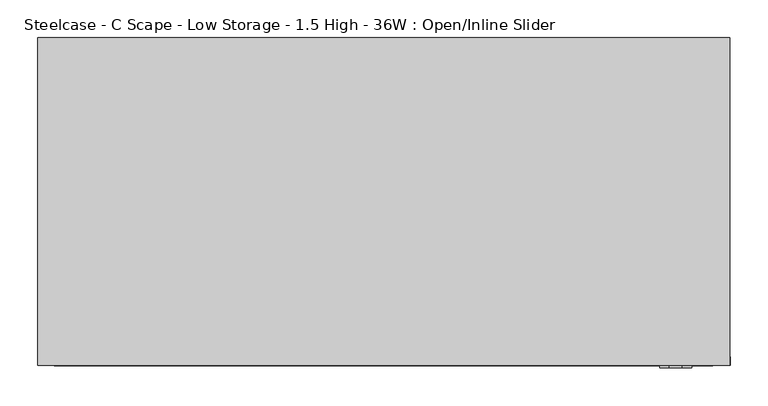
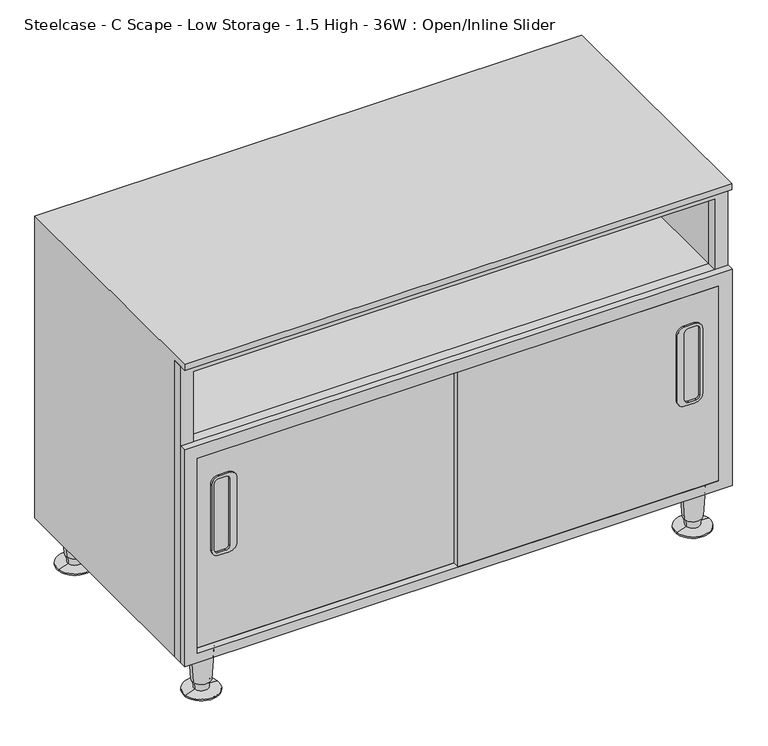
"""IFC4 building model written with IfcOpenShell, lengths in millimetres: furniture geometry, Steelcase - C Scape - Low Storage - 1.5 High - 36W : Open/Inline Slider."""

import ifcopenshell
import ifcopenshell.guid

model = None  # the IFC model being written
_history = None  # IfcOwnerHistory: only IFC2X3 demands one
_inside = {}  # id of a spatial element -> (the spatial element, [elements in it])
_under = {}  # id of a project, library or spatial element -> (it, [spatial elements below it])
_declared = {}  # id of a project -> (the project, [libraries it declares])
_typed = {}  # id of a type object -> (the type object, [elements of that type])
_made_of = {}  # id of a material, layer set ... -> (it, [elements and type objects made of it])


def new_model(schema):
    """Start an empty IFC model of exactly this schema.

    Asked for "IFC4X3", IfcOpenShell would pick the latest addendum, in which some entities
    have other attributes; the version numbers below select the first issue.
    IFC2X3 requires an IfcOwnerHistory on every rooted entity: one is made here for all.
    """
    global model, _history
    if schema == "IFC4X3":
        model = ifcopenshell.file(schema_version=(4, 3, 0, 0))
    else:
        model = ifcopenshell.file(schema=schema)
    _inside.clear()
    _under.clear()
    _declared.clear()
    _typed.clear()
    _made_of.clear()
    _history = None
    if model.schema == "IFC2X3":
        org = make("IfcOrganization", Name="unknown")
        user = make(
            "IfcPersonAndOrganization",
            ThePerson=make("IfcPerson", FamilyName="unknown"),
            TheOrganization=org,
        )
        app = make(
            "IfcApplication",
            ApplicationDeveloper=org,
            Version="unknown",
            ApplicationFullName="unknown",
            ApplicationIdentifier="unknown",
        )
        _history = make(
            "IfcOwnerHistory",
            OwningUser=user,
            OwningApplication=app,
            ChangeAction="ADDED",
            CreationDate=0,
        )
    return model


def make(cls, **values):
    """One entity of the class cls with the attributes given. An attribute that is None is left unset."""
    return model.create_entity(
        cls, **{name: value for name, value in values.items() if value is not None}
    )


def rooted(cls, **values):
    """An entity with a GlobalId (a new one), such as an element, a storey or a relation."""
    return make(cls, GlobalId=ifcopenshell.guid.new(), OwnerHistory=_history, **values)


def si_unit(unit_type, name, prefix=None):
    """IfcSIUnit, for example si_unit("LENGTHUNIT", "METRE", prefix="MILLI")."""
    return make("IfcSIUnit", UnitType=unit_type, Prefix=prefix, Name=name)


def assignment(units):
    """IfcUnitAssignment: the units of a project."""
    return None if units is None else make("IfcUnitAssignment", Units=units)


def point(xyz):
    """IfcCartesianPoint."""
    return None if xyz is None else make("IfcCartesianPoint", Coordinates=xyz)


def direction(xyz):
    """IfcDirection."""
    return None if xyz is None else make("IfcDirection", DirectionRatios=xyz)


def frame(location, z_axis=None, x_axis=None):
    """IfcAxis2Placement3D, a coordinate frame: its origin and axes. An axis left out is left unset."""
    return make(
        "IfcAxis2Placement3D",
        Location=point(location),
        Axis=direction(z_axis),
        RefDirection=direction(x_axis),
    )


def frame_2d(location, x_axis=None):
    """IfcAxis2Placement2D, a coordinate frame in the plane: its origin and x axis."""
    return make(
        "IfcAxis2Placement2D", Location=point(location), RefDirection=direction(x_axis)
    )


def origin():
    """The frame at (0, 0, 0) with its axes left unset."""
    return frame((0.0, 0.0, 0.0))


def place(relative_to, where):
    """IfcLocalPlacement: puts the frame where relative to a parent placement (None: the world)."""
    return make(
        "IfcLocalPlacement", PlacementRelTo=relative_to, RelativePlacement=where
    )


def context(
    kind, dimensions, precision=None, world=None, true_north=None, identifier=None
):
    """IfcGeometricRepresentationContext, for example the 3D "Model" context."""
    return make(
        "IfcGeometricRepresentationContext",
        ContextIdentifier=identifier,
        ContextType=kind,
        CoordinateSpaceDimension=dimensions,
        Precision=precision,
        WorldCoordinateSystem=world,
        TrueNorth=true_north,
    )


def project(units=None, contexts=None):
    """IfcProject with its units and contexts."""
    return rooted(
        "IfcProject",
        Name="project",
        RepresentationContexts=contexts,
        UnitsInContext=assignment(units),
    )


def spatial(cls, under=None, at=None, **own):
    """A site, building, storey or space (cls), placed at a placement, below another one or the project."""
    s = rooted(cls, ObjectPlacement=at, **own)
    if under is not None:
        _under.setdefault(under.id(), (under, []))[1].append(s)
    return s


def polyline(points):
    """IfcPolyline through the points."""
    return make("IfcPolyline", Points=[point(p) for p in points])


def circle_curve(where, radius):
    """IfcCircle in the frame where."""
    return make("IfcCircle", Position=where, Radius=radius)


def trimmed(basis, trim1, trim2, sense, master):
    """IfcTrimmedCurve: the piece of a basis curve between two trims."""
    return make(
        "IfcTrimmedCurve",
        BasisCurve=basis,
        Trim1=trim1,
        Trim2=trim2,
        SenseAgreement=sense,
        MasterRepresentation=master,
    )


def segment(curve, same_sense, transition):
    """IfcCompositeCurveSegment."""
    return make(
        "IfcCompositeCurveSegment",
        Transition=transition,
        SameSense=same_sense,
        ParentCurve=curve,
    )


def composite_curve(segments, self_intersect=None):
    """IfcCompositeCurve: segments joined end to end."""
    return make("IfcCompositeCurve", Segments=segments, SelfIntersect=self_intersect)


def outline(outer, holes=None, kind="AREA"):
    """IfcArbitraryClosedProfileDef: a profile drawn as a closed curve; with holes, ...WithVoids."""
    if holes is None:
        return make("IfcArbitraryClosedProfileDef", ProfileType=kind, OuterCurve=outer)
    return make(
        "IfcArbitraryProfileDefWithVoids",
        ProfileType=kind,
        OuterCurve=outer,
        InnerCurves=holes,
    )


def extrude(swept, where, along, depth):
    """IfcExtrudedAreaSolid: the profile swept, set in the frame where, extruded along a direction by depth."""
    return make(
        "IfcExtrudedAreaSolid",
        SweptArea=swept,
        Position=where,
        ExtrudedDirection=direction(along),
        Depth=depth,
    )


def faces_of(points, faces, orient=None, outer=None):
    """IfcFace entities. A face is a list of loops; a loop is a list of indices into points, from 0.

    orient and outer hold one flag for each loop. By default every Orientation is true, the
    first loop of a face is its IfcFaceOuterBound and the others are IfcFaceBound.
    """
    made = []
    for i, loops in enumerate(faces):
        bounds = []
        for j, loop in enumerate(loops):
            is_outer = j == 0 if outer is None else outer[i][j]
            bounds.append(
                make(
                    "IfcFaceOuterBound" if is_outer else "IfcFaceBound",
                    Bound=make("IfcPolyLoop", Polygon=[points[k] for k in loop]),
                    Orientation=True if orient is None else orient[i][j],
                )
            )
        made.append(make("IfcFace", Bounds=bounds))
    return made


def faceted_brep(points, faces, orient=None, outer=None, voids=None):
    """IfcFacetedBrep: a solid bounded by flat faces; with voids (closed shells), ...WithVoids."""
    shared = [point(p) for p in points]
    hull = make("IfcClosedShell", CfsFaces=faces_of(shared, faces, orient, outer))
    if voids is None:
        return make("IfcFacetedBrep", Outer=hull)
    return make(
        "IfcFacetedBrepWithVoids",
        Outer=hull,
        Voids=[
            make(cls, CfsFaces=faces_of(shared, fs, o, b)) for cls, fs, o, b in voids
        ],
    )


def shape(context_of_items, identifier, shape_type, items):
    """IfcShapeRepresentation: the items that make up one representation, for example the "Body"."""
    return make(
        "IfcShapeRepresentation",
        ContextOfItems=context_of_items,
        RepresentationIdentifier=identifier,
        RepresentationType=shape_type,
        Items=items,
    )


def source(mapping_origin, context_of_items, identifier, shape_type, items):
    """IfcRepresentationMap: a shape defined once, which mapped items show again and again."""
    return make(
        "IfcRepresentationMap",
        MappingOrigin=mapping_origin,
        MappedRepresentation=shape(context_of_items, identifier, shape_type, items),
    )


def transform(
    local_origin,
    x_axis=None,
    y_axis=None,
    z_axis=None,
    scale=None,
    scale2=None,
    scale3=None,
    uniform=True,
):
    """IfcCartesianTransformationOperator3D, or its non-uniform kind. x_axis, y_axis, z_axis: its Axis1, 2, 3."""
    if uniform:
        return make(
            "IfcCartesianTransformationOperator3D",
            Axis1=direction(x_axis),
            Axis2=direction(y_axis),
            LocalOrigin=point(local_origin),
            Scale=scale,
            Axis3=direction(z_axis),
        )
    return make(
        "IfcCartesianTransformationOperator3DnonUniform",
        Axis1=direction(x_axis),
        Axis2=direction(y_axis),
        LocalOrigin=point(local_origin),
        Scale=scale,
        Axis3=direction(z_axis),
        Scale2=scale2,
        Scale3=scale3,
    )


def mapped(mapping_source, mapping_target):
    """IfcMappedItem: shows the shape of a source again, moved by a transform."""
    return make(
        "IfcMappedItem", MappingSource=mapping_source, MappingTarget=mapping_target
    )


def made_of(thing, what):
    """Note that an element or type object is made of a material, layer set ...; save() writes the relation."""
    if what is not None:
        _made_of.setdefault(what.id(), (what, []))[1].append(thing)
    return thing


def element(
    cls,
    number,
    at=None,
    inside=None,
    cuts=None,
    type_object=None,
    material=None,
    context=None,
    identifier="Body",
    shape_type=None,
    held_by="IfcProductDefinitionShape",
    body=None,
    shapes=None,
    **own,
):
    """One element of the class cls, such as IfcWall. Its Tag is "e" and its number.

    at: its placement. inside: the storey or other place that contains it. cuts: it is an
    opening in that element (IfcRelVoidsElement). A single representation is given by context,
    identifier, shape_type and body (its items); several are given by shapes. held_by: the class
    of the entity that holds the representations. save() writes the other relations.
    """
    e = rooted(cls, Tag="e%d" % number, ObjectPlacement=at, **own)
    if body is not None:
        shapes = [shape(context, identifier, shape_type, body)]
    if shapes is not None:
        e.Representation = make(held_by, Representations=shapes)
    if inside is not None:
        _inside.setdefault(inside.id(), (inside, []))[1].append(e)
    if cuts is not None:
        rooted(
            "IfcRelVoidsElement", RelatingBuildingElement=cuts, RelatedOpeningElement=e
        )
    if type_object is not None:
        _typed.setdefault(type_object.id(), (type_object, []))[1].append(e)
    return made_of(e, material)


def aggregate(whole, parts):
    """IfcRelAggregates: a whole, such as a stair, and the parts it consists of."""
    return rooted("IfcRelAggregates", RelatingObject=whole, RelatedObjects=parts)


def save(model, path):
    """Write the relations noted so far, then the file.

    IfcRelAggregates (storeys below a building ...), IfcRelContainedInSpatialStructure (elements
    in a storey), IfcRelDefinesByType, IfcRelAssociatesMaterial and IfcRelDeclares: one each for
    every whole, place, type object, material and project.
    """
    for whole, parts in _under.values():
        aggregate(whole, parts)
    for where, things in _inside.values():
        rooted(
            "IfcRelContainedInSpatialStructure",
            RelatedElements=things,
            RelatingStructure=where,
        )
    for kind, things in _typed.values():
        rooted("IfcRelDefinesByType", RelatedObjects=things, RelatingType=kind)
    for what, things in _made_of.values():
        rooted("IfcRelAssociatesMaterial", RelatedObjects=things, RelatingMaterial=what)
    for by, libraries in _declared.values():
        rooted("IfcRelDeclares", RelatingContext=by, RelatedDefinitions=libraries)
    model.write(path)


def plane_surface(at):
    """IfcPlane: the flat surface through the origin of the frame at, square to its z axis."""
    return make("IfcPlane", Position=at)


def cylinder_surface(at, radius):
    """IfcCylindricalSurface: all points at the distance radius from the z axis of the frame at."""
    return make("IfcCylindricalSurface", Position=at, Radius=radius)


def revolved_surface(curve, axis_point, axis_direction):
    """IfcSurfaceOfRevolution: the curve turned about the line through axis_point along axis_direction."""
    return make(
        "IfcSurfaceOfRevolution",
        SweptCurve=make("IfcArbitraryOpenProfileDef", ProfileType="CURVE", Curve=curve),
        AxisPosition=make("IfcAxis1Placement", Location=point(axis_point), Axis=direction(axis_direction)),
    )


def advanced_brep(points, edges, surfaces, faces):
    """IfcAdvancedBrep: a solid bounded by faces that lie on surfaces and meet in shared edges.

    An edge is (start, end): straight between two places in points (the first is 0);
    or (start, end, curve); or (start, end, curve, False) where it runs against its curve.
    A face is (place in surfaces, loops), or (place, loops, False) where it looks against
    its surface's normal. A loop lists edges by number (the first is 1), with a minus sign
    where the edge is run from its end to its start. The first loop is the outer one.
    """
    corners = [point(p) for p in points]
    vertices = [make("IfcVertexPoint", VertexGeometry=c) for c in corners]
    made = []
    for start, end, *more in edges:
        made.append(
            make(
                "IfcEdgeCurve",
                EdgeStart=vertices[start],
                EdgeEnd=vertices[end],
                EdgeGeometry=more[0] if more else make("IfcPolyline", Points=[corners[start], corners[end]]),
                SameSense=more[1] if len(more) > 1 else True,
            )
        )
    hull = []
    for where, loops, *sense in faces:
        bounds = []
        for j, loop in enumerate(loops):
            ring = [make("IfcOrientedEdge", EdgeElement=made[abs(k) - 1], Orientation=k > 0) for k in loop]
            bounds.append(
                make(
                    "IfcFaceOuterBound" if j == 0 else "IfcFaceBound",
                    Bound=make("IfcEdgeLoop", EdgeList=ring),
                    Orientation=True,
                )
            )
        hull.append(make("IfcAdvancedFace", Bounds=bounds, FaceSurface=surfaces[where], SameSense=sense[0] if sense else True))
    return make("IfcAdvancedBrep", Outer=make("IfcClosedShell", CfsFaces=hull))


def steelcase_c_scape_low_storage_1_5_high_36w_open_inline_a9eafe9d(model_context):
    return source(origin(), model_context, "Body", "SolidModel", [
        extrude(outline(composite_curve([segment(trimmed(circle_curve(frame_2d((373.5963095, 833.2465039)), 12.7015503), [point((386.2978598, 833.2465039))], [point((373.5963095, 820.5449536))], False, "CARTESIAN"), True, "CONTINUOUS"), segment(polyline([(373.5963095, 820.5449536), (259.2993979, 820.5449536)]), True, "CONTINUOUS"), segment(trimmed(circle_curve(frame_2d((259.2993979, 833.2465039)), 12.7015503), [point((259.2993979, 820.5449536))], [point((246.5978477, 833.2465039))], False, "CARTESIAN"), True, "CONTINUOUS"), segment(polyline([(246.5978477, 833.2465039), (246.5978477, 850.1353895)]), True, "CONTINUOUS"), segment(trimmed(circle_curve(frame_2d((259.2978537, 850.1353895)), 12.7000061), [point((246.5978477, 850.1353895))], [point((259.2978537, 862.8353955))], False, "CARTESIAN"), True, "CONTINUOUS"), segment(polyline([(259.2978537, 862.8353955), (373.6009603, 862.8353955)]), True, "CONTINUOUS"), segment(trimmed(circle_curve(frame_2d((373.6009603, 850.1384961)), 12.6968994), [point((373.6009603, 862.8353955))], [point((386.2978598, 850.1384961))], False, "CARTESIAN"), True, "CONTINUOUS"), segment(polyline([(386.2978598, 850.1384961), (386.2978598, 833.2465039)]), True, "CONTINUOUS")], self_intersect=False), holes=[composite_curve([segment(trimmed(circle_curve(frame_2d((257.7496016, 851.6593335)), 6.3531006), [point((257.7496016, 858.0124341))], [point((251.396501, 851.6593335))], True, "CARTESIAN"), True, "CONTINUOUS"), segment(polyline([(251.396501, 851.6593335), (251.396501, 838.9624341)]), True, "CONTINUOUS"), segment(trimmed(circle_curve(frame_2d((257.7496016, 838.9624341)), 6.3531006), [point((251.396501, 838.9624341))], [point((257.7496016, 832.6093335))], True, "CARTESIAN"), True, "CONTINUOUS"), segment(polyline([(257.7496016, 832.6093335), (375.0913854, 832.6093335)]), True, "CONTINUOUS"), segment(trimmed(circle_curve(frame_2d((375.0913854, 838.9624341)), 6.3531006), [point((375.0913854, 832.6093335))], [point((381.444486, 838.9624341))], True, "CARTESIAN"), True, "CONTINUOUS"), segment(polyline([(381.444486, 838.9624341), (381.444486, 851.6593335)]), True, "CONTINUOUS"), segment(trimmed(circle_curve(frame_2d((375.0913854, 851.6593335)), 6.3531006), [point((381.444486, 851.6593335))], [point((375.0913854, 858.0124341))], True, "CARTESIAN"), True, "CONTINUOUS"), segment(polyline([(375.0913854, 858.0124341), (257.7496016, 858.0124341)]), True, "CONTINUOUS")], self_intersect=False)]), frame((0.0, -436.1182586, 0.0), z_axis=(0.0, 1.0, 0.0), x_axis=(0.0, 0.0, 1.0)), (0.0, 0.0, 1.0), 3.0482586),
        extrude(outline(composite_curve([segment(polyline([(386.2978598, 79.2484961), (386.2978598, 62.3565039)]), True, "CONTINUOUS"), segment(trimmed(circle_curve(frame_2d((373.6009603, 62.3565039)), 12.6968994), [point((386.2978598, 62.3565039))], [point((373.6009603, 49.6596045))], False, "CARTESIAN"), True, "CONTINUOUS"), segment(polyline([(373.6009603, 49.6596045), (259.2978537, 49.6596045)]), True, "CONTINUOUS"), segment(trimmed(circle_curve(frame_2d((259.2978537, 62.3596105)), 12.7000061), [point((259.2978537, 49.6596045))], [point((246.5978477, 62.3596105))], False, "CARTESIAN"), True, "CONTINUOUS"), segment(polyline([(246.5978477, 62.3596105), (246.5978477, 79.2484961)]), True, "CONTINUOUS"), segment(trimmed(circle_curve(frame_2d((259.2993979, 79.2484961)), 12.7015503), [point((246.5978477, 79.2484961))], [point((259.2993979, 91.9500464))], False, "CARTESIAN"), True, "CONTINUOUS"), segment(polyline([(259.2993979, 91.9500464), (373.5963095, 91.9500464)]), True, "CONTINUOUS"), segment(trimmed(circle_curve(frame_2d((373.5963095, 79.2484961)), 12.7015503), [point((373.5963095, 91.9500464))], [point((386.2978598, 79.2484961))], False, "CARTESIAN"), True, "CONTINUOUS")], self_intersect=False), holes=[composite_curve([segment(polyline([(257.7496016, 54.4825659), (375.0913854, 54.4825659)]), True, "CONTINUOUS"), segment(trimmed(circle_curve(frame_2d((375.0913854, 60.8356665)), 6.3531006), [point((375.0913854, 54.4825659))], [point((381.444486, 60.8356665))], True, "CARTESIAN"), True, "CONTINUOUS"), segment(polyline([(381.444486, 60.8356665), (381.444486, 73.5325659)]), True, "CONTINUOUS"), segment(trimmed(circle_curve(frame_2d((375.0913854, 73.5325659)), 6.3531006), [point((381.444486, 73.5325659))], [point((375.0913854, 79.8856665))], True, "CARTESIAN"), True, "CONTINUOUS"), segment(polyline([(375.0913854, 79.8856665), (257.7496016, 79.8856665)]), True, "CONTINUOUS"), segment(trimmed(circle_curve(frame_2d((257.7496016, 73.5325659)), 6.3531006), [point((257.7496016, 79.8856665))], [point((251.396501, 73.5325659))], True, "CARTESIAN"), True, "CONTINUOUS"), segment(polyline([(251.396501, 73.5325659), (251.396501, 60.8356665)]), True, "CONTINUOUS"), segment(trimmed(circle_curve(frame_2d((257.7496016, 60.8356665)), 6.3531006), [point((251.396501, 60.8356665))], [point((257.7496016, 54.4825659))], True, "CARTESIAN"), True, "CONTINUOUS")], self_intersect=False)]), frame((0.0, -424.7213475, 0.0), z_axis=(0.0, 1.0, 0.0), x_axis=(0.0, 0.0, 1.0)), (0.0, 0.0, 1.0), 3.0770066),
        extrude(outline(polyline([(458.7875121, 913.765), (458.7875121, 0.0), (76.2, 0.0), (76.2, 913.765), (458.7875121, 913.765)]), holes=[polyline([(436.8419, 891.1617285), (92.7100024, 891.1617285), (92.7100024, 21.3382324), (436.8419, 21.3382324), (436.8419, 891.1617285)])]), frame((0.0, -433.07, 0.0), z_axis=(0.0, 1.0, 0.0), x_axis=(0.0, 0.0, 1.0)), (0.0, 0.0, 1.0), 11.4256592),
        extrude(outline(polyline([(76.2, 0.0), (76.2, 913.13), (599.44, 913.13), (599.44, 0.0), (76.2, 0.0)]), holes=[polyline([(458.7875121, 891.1617285), (458.7875121, 21.3382324), (582.93, 21.3382324), (582.93, 891.1617285), (458.7875121, 891.1617285)]), polyline([(92.7100024, 891.1617285), (92.7100024, 21.3382324), (436.8419, 21.3382324), (436.8419, 891.1617285), (92.7100024, 891.1617285)])]), frame((0.0, -421.6443408, 0.0), z_axis=(0.0, 1.0, 0.0), x_axis=(0.0, 0.0, 1.0)), (0.0, 0.0, 1.0), 17.2762904),
        advanced_brep(
        [(885.8598695, -31.5218435, 76.2), (848.1981305, -37.2840847, 76.2), (867.029, -34.4029641, 76.2), (881.9095214, -32.1262463, 19.05), (852.1484786, -36.6796819, 19.05), (879.4799345, -32.4979728, 19.05), (854.5780655, -36.3079555, 19.05), (878.791165, -32.6033544, 5.7545598), (855.266835, -36.2025738, 5.7545598), (896.1400485, -29.9489775, 2.5119506), (837.9179515, -38.8569507, 2.5119506), (896.1400485, -29.9489775, 0.0), (837.9179515, -38.8569507, 0.0), (867.029, -34.4029641, 0.0)],
        [
            (0, 1, circle_curve(frame((867.029, -34.4029641, 76.2), z_axis=(0.0, 0.0, 1.0), x_axis=(0.0, -1.0, 0.0)), 19.05)),
            (1, 2),
            (2, 0),
            (1, 0, circle_curve(frame((867.029, -34.4029641, 76.2), z_axis=(0.0, 0.0, 1.0), x_axis=(0.0, -1.0, 0.0)), 19.05)),
            (3, 4, circle_curve(frame((867.029, -34.4029641, 19.05), z_axis=(0.0, 0.0, 1.0), x_axis=(0.0, -1.0, 0.0)), 15.0536827)),
            (4, 1),
            (0, 3),
            (4, 3, circle_curve(frame((867.029, -34.4029641, 19.05), z_axis=(0.0, 0.0, 1.0), x_axis=(0.0, -1.0, 0.0)), 15.0536827)),
            (5, 6, circle_curve(frame((867.029, -34.4029641, 19.05), z_axis=(0.0, 0.0, 1.0), x_axis=(0.0, -1.0, 0.0)), 12.5958232)),
            (6, 4),
            (3, 5),
            (6, 5, circle_curve(frame((867.029, -34.4029641, 19.05), z_axis=(0.0, 0.0, 1.0), x_axis=(0.0, -1.0, 0.0)), 12.5958232)),
            (7, 8, circle_curve(frame((867.029, -34.4029641, 5.7545598), z_axis=(0.0, 0.0, 1.0), x_axis=(0.0, -1.0, 0.0)), 11.8990387)),
            (8, 6),
            (5, 7),
            (8, 7, circle_curve(frame((867.029, -34.4029641, 5.7545598), z_axis=(0.0, 0.0, 1.0), x_axis=(0.0, -1.0, 0.0)), 11.8990387)),
            (9, 10, circle_curve(frame((867.029, -34.4029641, 2.5119506), z_axis=(0.0, 0.0, 1.0), x_axis=(0.0, -1.0, 0.0)), 29.4498071)),
            (10, 8),
            (7, 9),
            (10, 9, circle_curve(frame((867.029, -34.4029641, 2.5119506), z_axis=(0.0, 0.0, 1.0), x_axis=(0.0, -1.0, 0.0)), 29.4498071)),
            (11, 12, circle_curve(frame((867.029, -34.4029641, 0.0), z_axis=(0.0, 0.0, 1.0), x_axis=(0.0, -1.0, 0.0)), 29.4498071)),
            (12, 10),
            (9, 11),
            (12, 11, circle_curve(frame((867.029, -34.4029641, 0.0), z_axis=(0.0, 0.0, 1.0), x_axis=(0.0, -1.0, 0.0)), 29.4498071)),
            (13, 12),
            (11, 13),
        ],
        [
            plane_surface(frame((867.029, -34.4029641, 76.2), z_axis=(0.0, 0.0, 1.0), x_axis=(0.0, -1.0, 0.0))),
            revolved_surface(polyline([(867.029, -53.4529641, 76.2), (867.029, -49.4566468, 19.05)]), (867.029, -34.4029641, 25.4), (0.0, 0.0, -1.0)),
            plane_surface(frame((867.029, -34.4029641, 19.05), z_axis=(0.0, 0.0, -1.0), x_axis=(0.0, -1.0, 0.0))),
            revolved_surface(polyline([(867.029, -46.9987873, 19.05), (867.029, -46.3020028, 5.7545598)]), (867.029, -34.4029641, 25.4), (0.0, 0.0, -1.0)),
            revolved_surface(polyline([(867.029, -46.3020028, 5.7545598), (867.029, -63.8527712, 2.5119506)]), (867.029, -34.4029641, 25.4), (0.0, 0.0, -1.0)),
            cylinder_surface(frame((867.029, -34.4029641, 25.4), z_axis=(0.0, 0.0, -1.0), x_axis=(0.0, -1.0, 0.0)), 29.4498071),
            plane_surface(frame((867.029, -34.4029641, 0.0), z_axis=(0.0, 0.0, -1.0), x_axis=(0.0, -1.0, 0.0))),
        ],
        [
            (0, [[1, 2, 3]]),
            (0, [[4, -3, -2]]),
            (1, [[5, 6, -1, 7]]),
            (1, [[8, -7, -4, -6]]),
            (2, [[9, 10, -5, 11]]),
            (2, [[12, -11, -8, -10]]),
            (3, [[13, 14, -9, 15]]),
            (3, [[16, -15, -12, -14]]),
            (4, [[17, 18, -13, 19]]),
            (4, [[20, -19, -16, -18]]),
            (5, [[21, 22, -17, 23]]),
            (5, [[24, -23, -20, -22]]),
            (6, [[25, -21, 26]]),
            (6, [[-26, -24, -25]]),
        ],
    ),
        advanced_brep(
        [(885.8598695, -397.1702762, 76.2), (848.1981305, -402.9325174, 76.2), (867.029, -400.0513968, 76.2), (881.9095214, -397.774679, 19.05), (852.1484786, -402.3281146, 19.05), (879.4799345, -398.1464055, 19.05), (854.5780655, -401.9563882, 19.05), (878.791165, -398.2517871, 5.7545598), (855.266835, -401.8510065, 5.7545598), (896.1400485, -395.5974102, 2.5119506), (837.9179515, -404.5053834, 2.5119506), (896.1400485, -395.5974102, 0.0), (837.9179515, -404.5053834, 0.0), (867.029, -400.0513968, 0.0)],
        [
            (0, 1, circle_curve(frame((867.029, -400.0513968, 76.2), z_axis=(0.0, 0.0, 1.0), x_axis=(0.0, -1.0, 0.0)), 19.05)),
            (1, 2),
            (2, 0),
            (1, 0, circle_curve(frame((867.029, -400.0513968, 76.2), z_axis=(0.0, 0.0, 1.0), x_axis=(0.0, -1.0, 0.0)), 19.05)),
            (3, 4, circle_curve(frame((867.029, -400.0513968, 19.05), z_axis=(0.0, 0.0, 1.0), x_axis=(0.0, -1.0, 0.0)), 15.0536827)),
            (4, 1),
            (0, 3),
            (4, 3, circle_curve(frame((867.029, -400.0513968, 19.05), z_axis=(0.0, 0.0, 1.0), x_axis=(0.0, -1.0, 0.0)), 15.0536827)),
            (5, 6, circle_curve(frame((867.029, -400.0513968, 19.05), z_axis=(0.0, 0.0, 1.0), x_axis=(0.0, -1.0, 0.0)), 12.5958232)),
            (6, 4),
            (3, 5),
            (6, 5, circle_curve(frame((867.029, -400.0513968, 19.05), z_axis=(0.0, 0.0, 1.0), x_axis=(0.0, -1.0, 0.0)), 12.5958232)),
            (7, 8, circle_curve(frame((867.029, -400.0513968, 5.7545598), z_axis=(0.0, 0.0, 1.0), x_axis=(0.0, -1.0, 0.0)), 11.8990387)),
            (8, 6),
            (5, 7),
            (8, 7, circle_curve(frame((867.029, -400.0513968, 5.7545598), z_axis=(0.0, 0.0, 1.0), x_axis=(0.0, -1.0, 0.0)), 11.8990387)),
            (9, 10, circle_curve(frame((867.029, -400.0513968, 2.5119506), z_axis=(0.0, 0.0, 1.0), x_axis=(0.0, -1.0, 0.0)), 29.4498071)),
            (10, 8),
            (7, 9),
            (10, 9, circle_curve(frame((867.029, -400.0513968, 2.5119506), z_axis=(0.0, 0.0, 1.0), x_axis=(0.0, -1.0, 0.0)), 29.4498071)),
            (11, 12, circle_curve(frame((867.029, -400.0513968, 0.0), z_axis=(0.0, 0.0, 1.0), x_axis=(0.0, -1.0, 0.0)), 29.4498071)),
            (12, 10),
            (9, 11),
            (12, 11, circle_curve(frame((867.029, -400.0513968, 0.0), z_axis=(0.0, 0.0, 1.0), x_axis=(0.0, -1.0, 0.0)), 29.4498071)),
            (13, 12),
            (11, 13),
        ],
        [
            plane_surface(frame((867.029, -400.0513968, 76.2), z_axis=(0.0, 0.0, 1.0), x_axis=(0.0, -1.0, 0.0))),
            revolved_surface(polyline([(867.029, -419.1013968, 76.2), (867.029, -415.1050795, 19.05)]), (867.029, -400.0513968, 25.4), (0.0, 0.0, -1.0)),
            plane_surface(frame((867.029, -400.0513968, 19.05), z_axis=(0.0, 0.0, -1.0), x_axis=(0.0, -1.0, 0.0))),
            revolved_surface(polyline([(867.029, -412.64722, 19.05), (867.029, -411.9504355, 5.7545598)]), (867.029, -400.0513968, 25.4), (0.0, 0.0, -1.0)),
            revolved_surface(polyline([(867.029, -411.9504355, 5.7545598), (867.029, -429.5012039, 2.5119506)]), (867.029, -400.0513968, 25.4), (0.0, 0.0, -1.0)),
            cylinder_surface(frame((867.029, -400.0513968, 25.4), z_axis=(0.0, 0.0, -1.0), x_axis=(0.0, -1.0, 0.0)), 29.4498071),
            plane_surface(frame((867.029, -400.0513968, 0.0), z_axis=(0.0, 0.0, -1.0), x_axis=(0.0, -1.0, 0.0))),
        ],
        [
            (0, [[1, 2, 3]]),
            (0, [[4, -3, -2]]),
            (1, [[5, 6, -1, 7]]),
            (1, [[8, -7, -4, -6]]),
            (2, [[9, 10, -5, 11]]),
            (2, [[12, -11, -8, -10]]),
            (3, [[13, 14, -9, 15]]),
            (3, [[16, -15, -12, -14]]),
            (4, [[17, 18, -13, 19]]),
            (4, [[20, -19, -16, -18]]),
            (5, [[21, 22, -17, 23]]),
            (5, [[24, -23, -20, -22]]),
            (6, [[25, -21, 26]]),
            (6, [[-26, -24, -25]]),
        ],
    ),
        advanced_brep(
        [(65.5422821, -397.1702762, 76.2), (27.8805432, -402.9325174, 76.2), (46.7114126, -400.0513968, 76.2), (61.5919341, -397.774679, 19.05), (31.8308912, -402.3281146, 19.05), (59.1623471, -398.1464055, 19.05), (34.2604781, -401.9563882, 19.05), (58.4735776, -398.2517871, 5.7545598), (34.9492476, -401.8510065, 5.7545598), (75.8224611, -395.5974102, 2.5119506), (17.6003641, -404.5053834, 2.5119506), (75.8224611, -395.5974102, 0.0), (17.6003641, -404.5053834, 0.0), (46.7114126, -400.0513968, 0.0)],
        [
            (0, 1, circle_curve(frame((46.7114126, -400.0513968, 76.2), z_axis=(0.0, 0.0, 1.0), x_axis=(0.0, -1.0, 0.0)), 19.05)),
            (1, 2),
            (2, 0),
            (1, 0, circle_curve(frame((46.7114126, -400.0513968, 76.2), z_axis=(0.0, 0.0, 1.0), x_axis=(0.0, -1.0, 0.0)), 19.05)),
            (3, 4, circle_curve(frame((46.7114126, -400.0513968, 19.05), z_axis=(0.0, 0.0, 1.0), x_axis=(0.0, -1.0, 0.0)), 15.0536827)),
            (4, 1),
            (0, 3),
            (4, 3, circle_curve(frame((46.7114126, -400.0513968, 19.05), z_axis=(0.0, 0.0, 1.0), x_axis=(0.0, -1.0, 0.0)), 15.0536827)),
            (5, 6, circle_curve(frame((46.7114126, -400.0513968, 19.05), z_axis=(0.0, 0.0, 1.0), x_axis=(0.0, -1.0, 0.0)), 12.5958232)),
            (6, 4),
            (3, 5),
            (6, 5, circle_curve(frame((46.7114126, -400.0513968, 19.05), z_axis=(0.0, 0.0, 1.0), x_axis=(0.0, -1.0, 0.0)), 12.5958232)),
            (7, 8, circle_curve(frame((46.7114126, -400.0513968, 5.7545598), z_axis=(0.0, 0.0, 1.0), x_axis=(0.0, -1.0, 0.0)), 11.8990387)),
            (8, 6),
            (5, 7),
            (8, 7, circle_curve(frame((46.7114126, -400.0513968, 5.7545598), z_axis=(0.0, 0.0, 1.0), x_axis=(0.0, -1.0, 0.0)), 11.8990387)),
            (9, 10, circle_curve(frame((46.7114126, -400.0513968, 2.5119506), z_axis=(0.0, 0.0, 1.0), x_axis=(0.0, -1.0, 0.0)), 29.4498071)),
            (10, 8),
            (7, 9),
            (10, 9, circle_curve(frame((46.7114126, -400.0513968, 2.5119506), z_axis=(0.0, 0.0, 1.0), x_axis=(0.0, -1.0, 0.0)), 29.4498071)),
            (11, 12, circle_curve(frame((46.7114126, -400.0513968, 0.0), z_axis=(0.0, 0.0, 1.0), x_axis=(0.0, -1.0, 0.0)), 29.4498071)),
            (12, 10),
            (9, 11),
            (12, 11, circle_curve(frame((46.7114126, -400.0513968, 0.0), z_axis=(0.0, 0.0, 1.0), x_axis=(0.0, -1.0, 0.0)), 29.4498071)),
            (13, 12),
            (11, 13),
        ],
        [
            plane_surface(frame((46.7114126, -400.0513968, 76.2), z_axis=(0.0, 0.0, 1.0), x_axis=(0.0, -1.0, 0.0))),
            revolved_surface(polyline([(46.7114126, -419.1013968, 76.2), (46.7114126, -415.1050795, 19.05)]), (46.7114126, -400.0513968, 25.4), (0.0, 0.0, -1.0)),
            plane_surface(frame((46.7114126, -400.0513968, 19.05), z_axis=(0.0, 0.0, -1.0), x_axis=(0.0, -1.0, 0.0))),
            revolved_surface(polyline([(46.7114126, -412.64722, 19.05), (46.7114126, -411.9504355, 5.7545598)]), (46.7114126, -400.0513968, 25.4), (0.0, 0.0, -1.0)),
            revolved_surface(polyline([(46.7114126, -411.9504355, 5.7545598), (46.7114126, -429.5012039, 2.5119506)]), (46.7114126, -400.0513968, 25.4), (0.0, 0.0, -1.0)),
            cylinder_surface(frame((46.7114126, -400.0513968, 25.4), z_axis=(0.0, 0.0, -1.0), x_axis=(0.0, -1.0, 0.0)), 29.4498071),
            plane_surface(frame((46.7114126, -400.0513968, 0.0), z_axis=(0.0, 0.0, -1.0), x_axis=(0.0, -1.0, 0.0))),
        ],
        [
            (0, [[1, 2, 3]]),
            (0, [[4, -3, -2]]),
            (1, [[5, 6, -1, 7]]),
            (1, [[8, -7, -4, -6]]),
            (2, [[9, 10, -5, 11]]),
            (2, [[12, -11, -8, -10]]),
            (3, [[13, 14, -9, 15]]),
            (3, [[16, -15, -12, -14]]),
            (4, [[17, 18, -13, 19]]),
            (4, [[20, -19, -16, -18]]),
            (5, [[21, 22, -17, 23]]),
            (5, [[24, -23, -20, -22]]),
            (6, [[25, -21, 26]]),
            (6, [[-26, -24, -25]]),
        ],
    ),
        advanced_brep(
        [(65.5422821, -31.5218435, 76.2), (27.8805432, -37.2840847, 76.2), (46.7114126, -34.4029641, 76.2), (61.5919341, -32.1262463, 19.05), (31.8308912, -36.6796819, 19.05), (59.1623471, -32.4979728, 19.05), (34.2604781, -36.3079555, 19.05), (58.4735776, -32.6033544, 5.7545598), (34.9492476, -36.2025738, 5.7545598), (75.8224611, -29.9489775, 2.5119506), (17.6003641, -38.8569507, 2.5119506), (75.8224611, -29.9489775, 0.0), (17.6003641, -38.8569507, 0.0), (46.7114126, -34.4029641, 0.0)],
        [
            (0, 1, circle_curve(frame((46.7114126, -34.4029641, 76.2), z_axis=(0.0, 0.0, 1.0), x_axis=(0.0, -1.0, 0.0)), 19.05)),
            (1, 2),
            (2, 0),
            (1, 0, circle_curve(frame((46.7114126, -34.4029641, 76.2), z_axis=(0.0, 0.0, 1.0), x_axis=(0.0, -1.0, 0.0)), 19.05)),
            (3, 4, circle_curve(frame((46.7114126, -34.4029641, 19.05), z_axis=(0.0, 0.0, 1.0), x_axis=(0.0, -1.0, 0.0)), 15.0536827)),
            (4, 1),
            (0, 3),
            (4, 3, circle_curve(frame((46.7114126, -34.4029641, 19.05), z_axis=(0.0, 0.0, 1.0), x_axis=(0.0, -1.0, 0.0)), 15.0536827)),
            (5, 6, circle_curve(frame((46.7114126, -34.4029641, 19.05), z_axis=(0.0, 0.0, 1.0), x_axis=(0.0, -1.0, 0.0)), 12.5958232)),
            (6, 4),
            (3, 5),
            (6, 5, circle_curve(frame((46.7114126, -34.4029641, 19.05), z_axis=(0.0, 0.0, 1.0), x_axis=(0.0, -1.0, 0.0)), 12.5958232)),
            (7, 8, circle_curve(frame((46.7114126, -34.4029641, 5.7545598), z_axis=(0.0, 0.0, 1.0), x_axis=(0.0, -1.0, 0.0)), 11.8990387)),
            (8, 6),
            (5, 7),
            (8, 7, circle_curve(frame((46.7114126, -34.4029641, 5.7545598), z_axis=(0.0, 0.0, 1.0), x_axis=(0.0, -1.0, 0.0)), 11.8990387)),
            (9, 10, circle_curve(frame((46.7114126, -34.4029641, 2.5119506), z_axis=(0.0, 0.0, 1.0), x_axis=(0.0, -1.0, 0.0)), 29.4498071)),
            (10, 8),
            (7, 9),
            (10, 9, circle_curve(frame((46.7114126, -34.4029641, 2.5119506), z_axis=(0.0, 0.0, 1.0), x_axis=(0.0, -1.0, 0.0)), 29.4498071)),
            (11, 12, circle_curve(frame((46.7114126, -34.4029641, 0.0), z_axis=(0.0, 0.0, 1.0), x_axis=(0.0, -1.0, 0.0)), 29.4498071)),
            (12, 10),
            (9, 11),
            (12, 11, circle_curve(frame((46.7114126, -34.4029641, 0.0), z_axis=(0.0, 0.0, 1.0), x_axis=(0.0, -1.0, 0.0)), 29.4498071)),
            (13, 12),
            (11, 13),
        ],
        [
            plane_surface(frame((46.7114126, -34.4029641, 76.2), z_axis=(0.0, 0.0, 1.0), x_axis=(0.0, -1.0, 0.0))),
            revolved_surface(polyline([(46.7114126, -53.4529641, 76.2), (46.7114126, -49.4566468, 19.05)]), (46.7114126, -34.4029641, 25.4), (0.0, 0.0, -1.0)),
            plane_surface(frame((46.7114126, -34.4029641, 19.05), z_axis=(0.0, 0.0, -1.0), x_axis=(0.0, -1.0, 0.0))),
            revolved_surface(polyline([(46.7114126, -46.9987873, 19.05), (46.7114126, -46.3020028, 5.7545598)]), (46.7114126, -34.4029641, 25.4), (0.0, 0.0, -1.0)),
            revolved_surface(polyline([(46.7114126, -46.3020028, 5.7545598), (46.7114126, -63.8527712, 2.5119506)]), (46.7114126, -34.4029641, 25.4), (0.0, 0.0, -1.0)),
            cylinder_surface(frame((46.7114126, -34.4029641, 25.4), z_axis=(0.0, 0.0, -1.0), x_axis=(0.0, -1.0, 0.0)), 29.4498071),
            plane_surface(frame((46.7114126, -34.4029641, 0.0), z_axis=(0.0, 0.0, -1.0), x_axis=(0.0, -1.0, 0.0))),
        ],
        [
            (0, [[1, 2, 3]]),
            (0, [[4, -3, -2]]),
            (1, [[5, 6, -1, 7]]),
            (1, [[8, -7, -4, -6]]),
            (2, [[9, 10, -5, 11]]),
            (2, [[12, -11, -8, -10]]),
            (3, [[13, 14, -9, 15]]),
            (3, [[16, -15, -12, -14]]),
            (4, [[17, 18, -13, 19]]),
            (4, [[20, -19, -16, -18]]),
            (5, [[21, 22, -17, 23]]),
            (5, [[24, -23, -20, -22]]),
            (6, [[25, -21, 26]]),
            (6, [[-26, -24, -25]]),
        ],
    ),
        extrude(outline(polyline([(456.2475, -421.6443408), (891.1617285, -421.6443408), (891.1617285, -433.07), (456.2475, -433.07), (456.2475, -421.6443408)])), frame((0.0, 0.0, 92.7100024), z_axis=(0.0, 0.0, 1.0), x_axis=(1.0, 0.0, 0.0)), (0.0, 0.0, 1.0), 344.1318976),
        extrude(outline(polyline([(456.2475, -415.2912402), (456.2475, -421.6443408), (21.3382324, -421.6443408), (21.3382324, -415.2912402), (456.2475, -415.2912402)])), frame((0.0, 0.0, 92.7100024), z_axis=(0.0, 0.0, 1.0), x_axis=(1.0, 0.0, 0.0)), (0.0, 0.0, 1.0), 344.1318976),
        faceted_brep([(913.13, 0.0, 609.6), (0.0, 0.0, 609.6), (0.0, -433.07, 609.6), (913.13, -433.07, 609.6), (913.13, 0.0, 458.7875121), (913.13, 0.0, 450.8499879), (913.13, 0.0, 76.2), (0.0, 0.0, 76.2), (0.0, 0.0, 450.8499879), (0.0, 0.0, 458.7875121), (0.0, -404.3680504, 76.2), (0.0, -404.3680504, 599.44), (0.0, -433.07, 599.44), (913.13, -433.07, 599.44), (913.13, -404.3680504, 599.44), (913.13, -404.3680504, 76.2), (21.3382324, -404.3680504, 92.7100024), (21.3382324, -9.525, 92.7100024), (21.3382324, -9.525, 450.8499879), (21.3382324, -404.3680504, 450.8499879), (21.3382324, -9.525, 599.44), (21.3382324, -404.3680504, 599.44), (21.3382324, -404.3680504, 458.7875121), (21.3382324, -9.525, 458.7875121), (891.1617285, -9.525, 92.7100024), (891.1617285, -9.525, 450.8499879), (891.1617285, -9.525, 599.44), (891.1617285, -9.525, 458.7875121), (891.1617285, -404.3680504, 92.7100024), (891.1617285, -404.3680504, 450.8499879), (891.1617285, -404.3680504, 599.44), (891.1617285, -404.3680504, 458.7875121)], [[[0, 1, 2, 3]], [[1, 0, 4, 5, 6, 7, 8, 9]], [[2, 1, 9, 8, 7, 10, 11, 12]], [[3, 2, 12, 13]], [[0, 3, 13, 14, 15, 6, 5, 4]], [[16, 17, 18, 19]], [[20, 21, 22, 23]], [[17, 24, 25, 18]], [[26, 20, 23, 27]], [[24, 28, 29, 25]], [[30, 26, 27, 31]], [[16, 28, 24, 17]], [[6, 15, 10, 7]], [[22, 31, 27, 23]], [[29, 19, 18, 25]], [[10, 15, 14, 30, 31, 22, 21, 11], [16, 19, 29, 28]], [[13, 12, 11, 21, 20, 26, 30, 14]]]),
    ])


if __name__ == "__main__":
    model = new_model("IFC4")
    model_context = context("Model", 3, world=origin())
    ifc_project = project(units=[si_unit("LENGTHUNIT", "METRE", prefix="MILLI")], contexts=[model_context])
    site = spatial("IfcSite", under=ifc_project)
    building = spatial("IfcBuilding", under=site)
    placement = place(None, origin())
    steelcase_c_scape_low_storage_1_5_high_36w_open_inline_shape = steelcase_c_scape_low_storage_1_5_high_36w_open_inline_a9eafe9d(model_context)
    element("IfcFurniture", 1, ObjectType="Steelcase - C Scape - Low Storage - 1.5 High - 36W : Open/Inline Slider", at=placement, inside=building, context=model_context, shape_type="MappedRepresentation", body=[
        mapped(steelcase_c_scape_low_storage_1_5_high_36w_open_inline_shape, transform((0.0, 0.0, 0.0), x_axis=(1.0, 0.0, 0.0), y_axis=(0.0, 1.0, 0.0), z_axis=(0.0, 0.0, 1.0))),
    ])
    save(model, "model.ifc")
